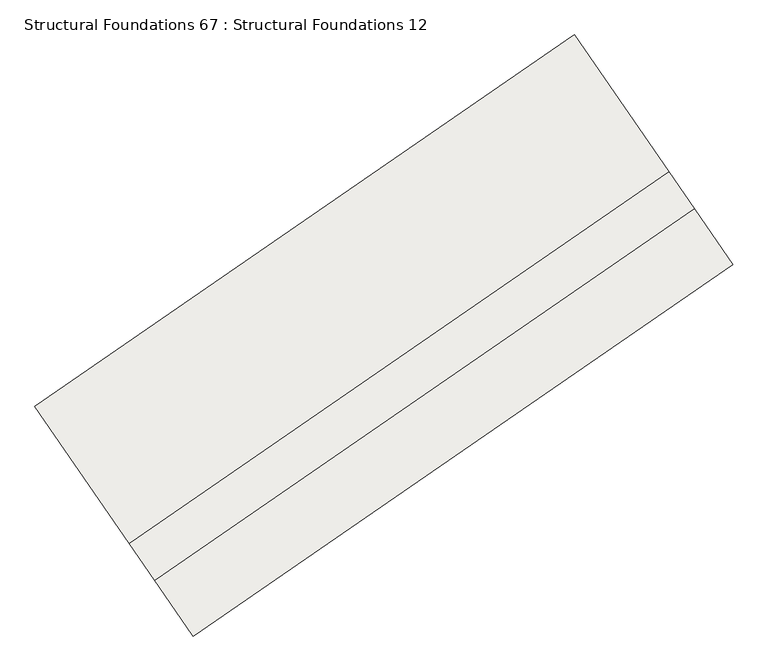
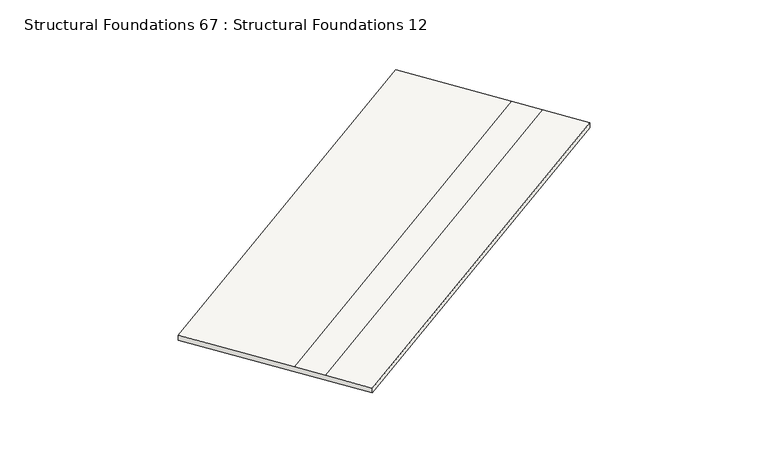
"""IFC4 building model written with IfcOpenShell, lengths in millimetres: slab geometry, Structural Foundations 67 : Structural Foundations 12."""

import ifcopenshell
import ifcopenshell.guid

model = None  # the IFC model being written
_history = None  # IfcOwnerHistory: only IFC2X3 demands one
_inside = {}  # id of a spatial element -> (the spatial element, [elements in it])
_under = {}  # id of a project, library or spatial element -> (it, [spatial elements below it])
_declared = {}  # id of a project -> (the project, [libraries it declares])
_typed = {}  # id of a type object -> (the type object, [elements of that type])
_made_of = {}  # id of a material, layer set ... -> (it, [elements and type objects made of it])


def new_model(schema):
    """Start an empty IFC model of exactly this schema.

    Asked for "IFC4X3", IfcOpenShell would pick the latest addendum, in which some entities
    have other attributes; the version numbers below select the first issue.
    IFC2X3 requires an IfcOwnerHistory on every rooted entity: one is made here for all.
    """
    global model, _history
    if schema == "IFC4X3":
        model = ifcopenshell.file(schema_version=(4, 3, 0, 0))
    else:
        model = ifcopenshell.file(schema=schema)
    _inside.clear()
    _under.clear()
    _declared.clear()
    _typed.clear()
    _made_of.clear()
    _history = None
    if model.schema == "IFC2X3":
        org = make("IfcOrganization", Name="unknown")
        user = make(
            "IfcPersonAndOrganization",
            ThePerson=make("IfcPerson", FamilyName="unknown"),
            TheOrganization=org,
        )
        app = make(
            "IfcApplication",
            ApplicationDeveloper=org,
            Version="unknown",
            ApplicationFullName="unknown",
            ApplicationIdentifier="unknown",
        )
        _history = make(
            "IfcOwnerHistory",
            OwningUser=user,
            OwningApplication=app,
            ChangeAction="ADDED",
            CreationDate=0,
        )
    return model


def make(cls, **values):
    """One entity of the class cls with the attributes given. An attribute that is None is left unset."""
    return model.create_entity(
        cls, **{name: value for name, value in values.items() if value is not None}
    )


def rooted(cls, **values):
    """An entity with a GlobalId (a new one), such as an element, a storey or a relation."""
    return make(cls, GlobalId=ifcopenshell.guid.new(), OwnerHistory=_history, **values)


def si_unit(unit_type, name, prefix=None):
    """IfcSIUnit, for example si_unit("LENGTHUNIT", "METRE", prefix="MILLI")."""
    return make("IfcSIUnit", UnitType=unit_type, Prefix=prefix, Name=name)


def assignment(units):
    """IfcUnitAssignment: the units of a project."""
    return None if units is None else make("IfcUnitAssignment", Units=units)


def point(xyz):
    """IfcCartesianPoint."""
    return None if xyz is None else make("IfcCartesianPoint", Coordinates=xyz)


def direction(xyz):
    """IfcDirection."""
    return None if xyz is None else make("IfcDirection", DirectionRatios=xyz)


def frame(location, z_axis=None, x_axis=None):
    """IfcAxis2Placement3D, a coordinate frame: its origin and axes. An axis left out is left unset."""
    return make(
        "IfcAxis2Placement3D",
        Location=point(location),
        Axis=direction(z_axis),
        RefDirection=direction(x_axis),
    )


def origin():
    """The frame at (0, 0, 0) with its axes left unset."""
    return frame((0.0, 0.0, 0.0))


def place(relative_to, where):
    """IfcLocalPlacement: puts the frame where relative to a parent placement (None: the world)."""
    return make(
        "IfcLocalPlacement", PlacementRelTo=relative_to, RelativePlacement=where
    )


def context(
    kind, dimensions, precision=None, world=None, true_north=None, identifier=None
):
    """IfcGeometricRepresentationContext, for example the 3D "Model" context."""
    return make(
        "IfcGeometricRepresentationContext",
        ContextIdentifier=identifier,
        ContextType=kind,
        CoordinateSpaceDimension=dimensions,
        Precision=precision,
        WorldCoordinateSystem=world,
        TrueNorth=true_north,
    )


def project(units=None, contexts=None):
    """IfcProject with its units and contexts."""
    return rooted(
        "IfcProject",
        Name="project",
        RepresentationContexts=contexts,
        UnitsInContext=assignment(units),
    )


def spatial(cls, under=None, at=None, **own):
    """A site, building, storey or space (cls), placed at a placement, below another one or the project."""
    s = rooted(cls, ObjectPlacement=at, **own)
    if under is not None:
        _under.setdefault(under.id(), (under, []))[1].append(s)
    return s


def faces_of(points, faces, orient=None, outer=None):
    """IfcFace entities. A face is a list of loops; a loop is a list of indices into points, from 0.

    orient and outer hold one flag for each loop. By default every Orientation is true, the
    first loop of a face is its IfcFaceOuterBound and the others are IfcFaceBound.
    """
    made = []
    for i, loops in enumerate(faces):
        bounds = []
        for j, loop in enumerate(loops):
            is_outer = j == 0 if outer is None else outer[i][j]
            bounds.append(
                make(
                    "IfcFaceOuterBound" if is_outer else "IfcFaceBound",
                    Bound=make("IfcPolyLoop", Polygon=[points[k] for k in loop]),
                    Orientation=True if orient is None else orient[i][j],
                )
            )
        made.append(make("IfcFace", Bounds=bounds))
    return made


def faceted_brep(points, faces, orient=None, outer=None, voids=None):
    """IfcFacetedBrep: a solid bounded by flat faces; with voids (closed shells), ...WithVoids."""
    shared = [point(p) for p in points]
    hull = make("IfcClosedShell", CfsFaces=faces_of(shared, faces, orient, outer))
    if voids is None:
        return make("IfcFacetedBrep", Outer=hull)
    return make(
        "IfcFacetedBrepWithVoids",
        Outer=hull,
        Voids=[
            make(cls, CfsFaces=faces_of(shared, fs, o, b)) for cls, fs, o, b in voids
        ],
    )


def shape(context_of_items, identifier, shape_type, items):
    """IfcShapeRepresentation: the items that make up one representation, for example the "Body"."""
    return make(
        "IfcShapeRepresentation",
        ContextOfItems=context_of_items,
        RepresentationIdentifier=identifier,
        RepresentationType=shape_type,
        Items=items,
    )


def source(mapping_origin, context_of_items, identifier, shape_type, items):
    """IfcRepresentationMap: a shape defined once, which mapped items show again and again."""
    return make(
        "IfcRepresentationMap",
        MappingOrigin=mapping_origin,
        MappedRepresentation=shape(context_of_items, identifier, shape_type, items),
    )


def transform(
    local_origin,
    x_axis=None,
    y_axis=None,
    z_axis=None,
    scale=None,
    scale2=None,
    scale3=None,
    uniform=True,
):
    """IfcCartesianTransformationOperator3D, or its non-uniform kind. x_axis, y_axis, z_axis: its Axis1, 2, 3."""
    if uniform:
        return make(
            "IfcCartesianTransformationOperator3D",
            Axis1=direction(x_axis),
            Axis2=direction(y_axis),
            LocalOrigin=point(local_origin),
            Scale=scale,
            Axis3=direction(z_axis),
        )
    return make(
        "IfcCartesianTransformationOperator3DnonUniform",
        Axis1=direction(x_axis),
        Axis2=direction(y_axis),
        LocalOrigin=point(local_origin),
        Scale=scale,
        Axis3=direction(z_axis),
        Scale2=scale2,
        Scale3=scale3,
    )


def mapped(mapping_source, mapping_target):
    """IfcMappedItem: shows the shape of a source again, moved by a transform."""
    return make(
        "IfcMappedItem", MappingSource=mapping_source, MappingTarget=mapping_target
    )


def made_of(thing, what):
    """Note that an element or type object is made of a material, layer set ...; save() writes the relation."""
    if what is not None:
        _made_of.setdefault(what.id(), (what, []))[1].append(thing)
    return thing


def element(
    cls,
    number,
    at=None,
    inside=None,
    cuts=None,
    type_object=None,
    material=None,
    context=None,
    identifier="Body",
    shape_type=None,
    held_by="IfcProductDefinitionShape",
    body=None,
    shapes=None,
    **own,
):
    """One element of the class cls, such as IfcWall. Its Tag is "e" and its number.

    at: its placement. inside: the storey or other place that contains it. cuts: it is an
    opening in that element (IfcRelVoidsElement). A single representation is given by context,
    identifier, shape_type and body (its items); several are given by shapes. held_by: the class
    of the entity that holds the representations. save() writes the other relations.
    """
    e = rooted(cls, Tag="e%d" % number, ObjectPlacement=at, **own)
    if body is not None:
        shapes = [shape(context, identifier, shape_type, body)]
    if shapes is not None:
        e.Representation = make(held_by, Representations=shapes)
    if inside is not None:
        _inside.setdefault(inside.id(), (inside, []))[1].append(e)
    if cuts is not None:
        rooted(
            "IfcRelVoidsElement", RelatingBuildingElement=cuts, RelatedOpeningElement=e
        )
    if type_object is not None:
        _typed.setdefault(type_object.id(), (type_object, []))[1].append(e)
    return made_of(e, material)


def aggregate(whole, parts):
    """IfcRelAggregates: a whole, such as a stair, and the parts it consists of."""
    return rooted("IfcRelAggregates", RelatingObject=whole, RelatedObjects=parts)


def save(model, path):
    """Write the relations noted so far, then the file.

    IfcRelAggregates (storeys below a building ...), IfcRelContainedInSpatialStructure (elements
    in a storey), IfcRelDefinesByType, IfcRelAssociatesMaterial and IfcRelDeclares: one each for
    every whole, place, type object, material and project.
    """
    for whole, parts in _under.values():
        aggregate(whole, parts)
    for where, things in _inside.values():
        rooted(
            "IfcRelContainedInSpatialStructure",
            RelatedElements=things,
            RelatingStructure=where,
        )
    for kind, things in _typed.values():
        rooted("IfcRelDefinesByType", RelatedObjects=things, RelatingType=kind)
    for what, things in _made_of.values():
        rooted("IfcRelAssociatesMaterial", RelatedObjects=things, RelatingMaterial=what)
    for by, libraries in _declared.values():
        rooted("IfcRelDeclares", RelatingContext=by, RelatedDefinitions=libraries)
    model.write(path)


def structural_foundations_67_structural_foundations_12_1891db5f(model_context):
    return source(origin(), model_context, "Body", "Brep", [
        faceted_brep([(-310432.6544179, -418224.6526221, 634190.9999998), (-309922.1128037, -418965.832264, 634190.9999996), (-309922.1128037, -418965.832264, 634090.9999996), (-312021.0061046, -415918.7604054, 634091.0000002), (-312021.0061046, -415918.7604054, 634191.0000002), (-310770.1791507, -417734.6505269, 634190.9999998), (-317597.3909502, -423159.8882215, 634118.0000001), (-317934.9156831, -422669.8861263, 634118.0000002), (-319185.742637, -420853.9960048, 634118.0000005), (-319185.742637, -420853.9960048, 634018.0000005), (-317086.8493361, -423901.0678634, 634018.0), (-317086.8493361, -423901.0678634, 634118.0)], [[[0, 1, 2, 3, 4, 5]], [[6, 7, 8, 9, 10, 11]], [[8, 7, 5, 4]], [[7, 6, 0, 5]], [[6, 11, 1, 0]], [[11, 10, 2, 1]], [[10, 9, 3, 2]], [[9, 8, 4, 3]]]),
    ])


if __name__ == "__main__":
    model = new_model("IFC4")
    model_context = context("Model", 3, world=origin())
    ifc_project = project(units=[si_unit("LENGTHUNIT", "METRE", prefix="MILLI")], contexts=[model_context])
    site = spatial("IfcSite", under=ifc_project)
    building = spatial("IfcBuilding", under=site)
    placement = place(None, origin())
    structural_foundations_67_structural_foundations_12_shape = structural_foundations_67_structural_foundations_12_1891db5f(model_context)
    element("IfcSlab", 1, ObjectType="Structural Foundations 67 : Structural Foundations 12", at=placement, inside=building, context=model_context, shape_type="MappedRepresentation", body=[
        mapped(structural_foundations_67_structural_foundations_12_shape, transform((0.0, 0.0, 0.0), x_axis=(1.0, 0.0, 0.0), y_axis=(0.0, 1.0, 0.0), z_axis=(0.0, 0.0, 1.0))),
    ])
    save(model, "model.ifc")
